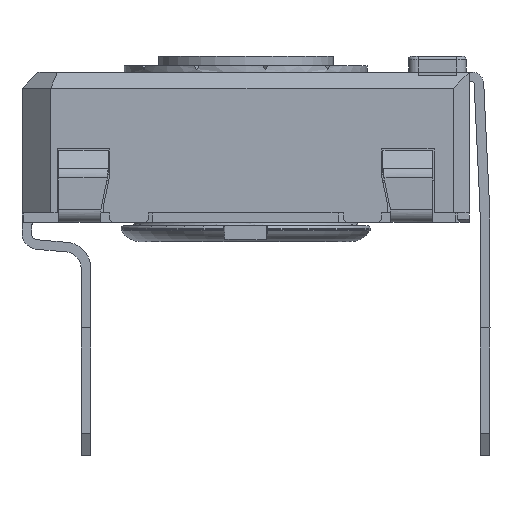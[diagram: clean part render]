
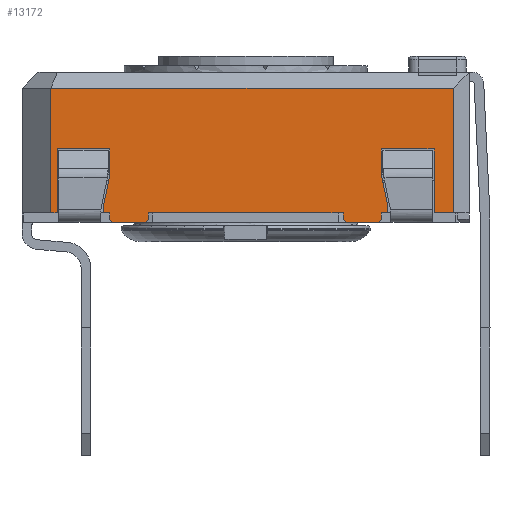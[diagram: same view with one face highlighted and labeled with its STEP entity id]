
A CAD part, left-side view. The second image highlights one B-rep face of the part: STEP entity #13172.
In plain terms, the highlighted planar face has unit normal (-1, 0, 0).
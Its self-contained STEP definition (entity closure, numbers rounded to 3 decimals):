
#453=PLANE('',#14061);
#1060=FACE_OUTER_BOUND('',#1746,.T.);
#1746=EDGE_LOOP('',(#10877,#10878,#10879,#10880,#10881,#10882,#10883,#10884,
#10885,#10886,#10887,#10888,#10889,#10890,#10891,#10892,#10893,#10894,#10895,
#10896,#10897,#10898,#10899,#10900,#10901,#10902,#10903,#10904));
#2746=LINE('',#20163,#4257);
#2752=LINE('',#20175,#4263);
#2755=LINE('',#20182,#4266);
#2760=LINE('',#20191,#4271);
#2780=LINE('',#20232,#4291);
#2794=LINE('',#20258,#4305);
#2798=LINE('',#20265,#4309);
#2813=LINE('',#20294,#4324);
#2816=LINE('',#20300,#4327);
#2821=LINE('',#20310,#4332);
#2824=LINE('',#20316,#4335);
#2827=LINE('',#20322,#4338);
#2845=LINE('',#20357,#4356);
#2857=LINE('',#20379,#4368);
#2860=LINE('',#20385,#4371);
#2897=LINE('',#20519,#4408);
#2900=LINE('',#20525,#4411);
#2926=LINE('',#20572,#4437);
#2931=LINE('',#20582,#4442);
#2933=LINE('',#20585,#4444);
#3058=LINE('',#20896,#4569);
#3060=LINE('',#20901,#4571);
#3063=LINE('',#20905,#4574);
#3065=LINE('',#20909,#4576);
#3068=LINE('',#20917,#4579);
#3069=LINE('',#20919,#4580);
#3070=LINE('',#20920,#4581);
#3071=LINE('',#20921,#4582);
#4257=VECTOR('',#16143,10.);
#4263=VECTOR('',#16151,10.);
#4266=VECTOR('',#16156,10.);
#4271=VECTOR('',#16163,10.);
#4291=VECTOR('',#16197,10.);
#4305=VECTOR('',#16211,10.);
#4309=VECTOR('',#16215,10.);
#4324=VECTOR('',#16242,10.);
#4327=VECTOR('',#16247,10.);
#4332=VECTOR('',#16254,10.);
#4335=VECTOR('',#16259,10.);
#4338=VECTOR('',#16264,10.);
#4356=VECTOR('',#16284,10.);
#4368=VECTOR('',#16298,10.);
#4371=VECTOR('',#16303,10.);
#4408=VECTOR('',#16384,10.);
#4411=VECTOR('',#16389,10.);
#4437=VECTOR('',#16417,10.);
#4442=VECTOR('',#16424,10.);
#4444=VECTOR('',#16428,10.);
#4569=VECTOR('',#16719,10.);
#4571=VECTOR('',#16723,10.);
#4574=VECTOR('',#16728,10.);
#4576=VECTOR('',#16734,10.);
#4579=VECTOR('',#16745,10.);
#4580=VECTOR('',#16746,10.);
#4581=VECTOR('',#16747,10.);
#4582=VECTOR('',#16748,10.);
#6011=VERTEX_POINT('',#20160);
#6012=VERTEX_POINT('',#20162);
#6016=VERTEX_POINT('',#20172);
#6018=VERTEX_POINT('',#20178);
#6020=VERTEX_POINT('',#20181);
#6023=VERTEX_POINT('',#20189);
#6048=VERTEX_POINT('',#20255);
#6049=VERTEX_POINT('',#20257);
#6051=VERTEX_POINT('',#20262);
#6052=VERTEX_POINT('',#20264);
#6059=VERTEX_POINT('',#20291);
#6061=VERTEX_POINT('',#20297);
#6065=VERTEX_POINT('',#20307);
#6067=VERTEX_POINT('',#20313);
#6070=VERTEX_POINT('',#20320);
#6086=VERTEX_POINT('',#20355);
#6095=VERTEX_POINT('',#20377);
#6097=VERTEX_POINT('',#20383);
#6124=VERTEX_POINT('',#20517);
#6125=VERTEX_POINT('',#20522);
#6145=VERTEX_POINT('',#20569);
#6149=VERTEX_POINT('',#20579);
#6223=VERTEX_POINT('',#20893);
#6224=VERTEX_POINT('',#20895);
#6225=VERTEX_POINT('',#20899);
#6226=VERTEX_POINT('',#20900);
#6227=VERTEX_POINT('',#20916);
#6228=VERTEX_POINT('',#20918);
#7546=EDGE_CURVE('',#6012,#6011,#2746,.T.);
#7552=EDGE_CURVE('',#6011,#6016,#2752,.T.);
#7555=EDGE_CURVE('',#6020,#6018,#2755,.T.);
#7560=EDGE_CURVE('',#6023,#6018,#2760,.T.);
#7580=EDGE_CURVE('',#6016,#6020,#2780,.T.);
#7594=EDGE_CURVE('',#6049,#6048,#2794,.T.);
#7598=EDGE_CURVE('',#6052,#6051,#2798,.T.);
#7614=EDGE_CURVE('',#6048,#6059,#2813,.T.);
#7617=EDGE_CURVE('',#6059,#6061,#2816,.T.);
#7622=EDGE_CURVE('',#6061,#6065,#2821,.T.);
#7625=EDGE_CURVE('',#6065,#6067,#2824,.T.);
#7628=EDGE_CURVE('',#6067,#6070,#2827,.T.);
#7646=EDGE_CURVE('',#6070,#6086,#2845,.T.);
#7658=EDGE_CURVE('',#6095,#6086,#2857,.T.);
#7661=EDGE_CURVE('',#6097,#6095,#2860,.T.);
#7710=EDGE_CURVE('',#6124,#6097,#2897,.T.);
#7713=EDGE_CURVE('',#6124,#6125,#2900,.T.);
#7739=EDGE_CURVE('',#6125,#6145,#2926,.T.);
#7744=EDGE_CURVE('',#6145,#6149,#2931,.T.);
#7746=EDGE_CURVE('',#6149,#6012,#2933,.T.);
#7887=EDGE_CURVE('',#6223,#6224,#3058,.T.);
#7889=EDGE_CURVE('',#6225,#6226,#3060,.T.);
#7892=EDGE_CURVE('',#6049,#6223,#3063,.T.);
#7894=EDGE_CURVE('',#6051,#6226,#3065,.T.);
#7897=EDGE_CURVE('',#6023,#6227,#3068,.T.);
#7898=EDGE_CURVE('',#6228,#6227,#3069,.T.);
#7899=EDGE_CURVE('',#6052,#6228,#3070,.T.);
#7900=EDGE_CURVE('',#6225,#6224,#3071,.T.);
#10877=ORIENTED_EDGE('',*,*,#7552,.T.);
#10878=ORIENTED_EDGE('',*,*,#7580,.T.);
#10879=ORIENTED_EDGE('',*,*,#7555,.T.);
#10880=ORIENTED_EDGE('',*,*,#7560,.F.);
#10881=ORIENTED_EDGE('',*,*,#7897,.T.);
#10882=ORIENTED_EDGE('',*,*,#7898,.F.);
#10883=ORIENTED_EDGE('',*,*,#7899,.F.);
#10884=ORIENTED_EDGE('',*,*,#7598,.T.);
#10885=ORIENTED_EDGE('',*,*,#7894,.T.);
#10886=ORIENTED_EDGE('',*,*,#7889,.F.);
#10887=ORIENTED_EDGE('',*,*,#7900,.T.);
#10888=ORIENTED_EDGE('',*,*,#7887,.F.);
#10889=ORIENTED_EDGE('',*,*,#7892,.F.);
#10890=ORIENTED_EDGE('',*,*,#7594,.T.);
#10891=ORIENTED_EDGE('',*,*,#7614,.T.);
#10892=ORIENTED_EDGE('',*,*,#7617,.T.);
#10893=ORIENTED_EDGE('',*,*,#7622,.T.);
#10894=ORIENTED_EDGE('',*,*,#7625,.T.);
#10895=ORIENTED_EDGE('',*,*,#7628,.T.);
#10896=ORIENTED_EDGE('',*,*,#7646,.T.);
#10897=ORIENTED_EDGE('',*,*,#7658,.F.);
#10898=ORIENTED_EDGE('',*,*,#7661,.F.);
#10899=ORIENTED_EDGE('',*,*,#7710,.F.);
#10900=ORIENTED_EDGE('',*,*,#7713,.T.);
#10901=ORIENTED_EDGE('',*,*,#7739,.T.);
#10902=ORIENTED_EDGE('',*,*,#7744,.T.);
#10903=ORIENTED_EDGE('',*,*,#7746,.T.);
#10904=ORIENTED_EDGE('',*,*,#7546,.T.);
#13172=ADVANCED_FACE('',(#1060),#453,.T.);
#14061=AXIS2_PLACEMENT_3D('',#20915,#16743,#16744);
#16143=DIRECTION('',(0.,0.208,-0.978));
#16151=DIRECTION('',(0.,0.,-1.));
#16156=DIRECTION('',(0.,0.,-1.));
#16163=DIRECTION('',(0.,0.707,0.707));
#16197=DIRECTION('',(0.,-1.,0.));
#16211=DIRECTION('',(0.,-1.,0.));
#16215=DIRECTION('',(0.,-1.,0.));
#16242=DIRECTION('',(0.,0.,1.));
#16247=DIRECTION('',(0.,0.208,0.978));
#16254=DIRECTION('',(0.,0.,1.));
#16259=DIRECTION('',(0.,-1.,0.));
#16264=DIRECTION('',(0.,0.,-1.));
#16284=DIRECTION('',(0.,-1.,0.));
#16298=DIRECTION('',(0.,0.,-1.));
#16303=DIRECTION('',(0.,-1.,0.));
#16384=DIRECTION('',(0.,0.,1.));
#16389=DIRECTION('',(0.,-1.,0.));
#16417=DIRECTION('',(0.,0.,1.));
#16424=DIRECTION('',(0.,-1.,0.));
#16428=DIRECTION('',(0.,0.,-1.));
#16719=DIRECTION('',(0.,0.707,-0.707));
#16723=DIRECTION('',(0.,0.707,0.707));
#16728=DIRECTION('',(0.,0.,-1.));
#16734=DIRECTION('',(0.,0.,-1.));
#16743=DIRECTION('center_axis',(-1.,0.,0.));
#16744=DIRECTION('ref_axis',(0.,0.,1.));
#16745=DIRECTION('',(0.,-1.,0.));
#16746=DIRECTION('',(0.,0.707,-0.707));
#16747=DIRECTION('',(0.,0.,-1.));
#16748=DIRECTION('',(0.,-1.,0.));
#20160=CARTESIAN_POINT('',(-14.467,1.552,0.235));
#20162=CARTESIAN_POINT('',(-14.467,1.352,1.176));
#20163=CARTESIAN_POINT('',(-14.467,1.228,1.757));
#20172=CARTESIAN_POINT('',(-14.467,1.552,0.));
#20175=CARTESIAN_POINT('',(-14.467,1.552,0.));
#20178=CARTESIAN_POINT('',(-14.467,1.352,-0.2));
#20181=CARTESIAN_POINT('',(-14.467,1.352,0.));
#20182=CARTESIAN_POINT('',(-14.467,1.352,0.));
#20189=CARTESIAN_POINT('',(-14.467,1.252,-0.3));
#20191=CARTESIAN_POINT('',(-14.467,-1.436,-2.988));
#20232=CARTESIAN_POINT('',(-14.467,4.102,0.));
#20255=CARTESIAN_POINT('',(-14.467,-7.348,0.));
#20257=CARTESIAN_POINT('',(-14.467,-7.148,0.));
#20258=CARTESIAN_POINT('',(-14.467,4.102,0.));
#20262=CARTESIAN_POINT('',(-14.467,-5.948,0.));
#20264=CARTESIAN_POINT('',(-14.467,0.152,0.));
#20265=CARTESIAN_POINT('',(-14.467,4.102,0.));
#20291=CARTESIAN_POINT('',(-14.467,-7.348,0.235));
#20294=CARTESIAN_POINT('',(-14.467,-7.348,0.118));
#20297=CARTESIAN_POINT('',(-14.467,-7.148,1.176));
#20300=CARTESIAN_POINT('',(-14.467,-7.453,-0.254));
#20307=CARTESIAN_POINT('',(-14.467,-7.148,2.));
#20310=CARTESIAN_POINT('',(-14.467,-7.148,0.588));
#20313=CARTESIAN_POINT('',(-14.467,-8.798,2.));
#20316=CARTESIAN_POINT('',(-14.467,-8.523,2.));
#20320=CARTESIAN_POINT('',(-14.467,-8.798,0.));
#20322=CARTESIAN_POINT('',(-14.467,-8.798,0.));
#20355=CARTESIAN_POINT('',(-14.467,-9.398,0.));
#20357=CARTESIAN_POINT('',(-14.467,-9.595,0.));
#20377=CARTESIAN_POINT('',(-14.467,-9.398,3.9));
#20379=CARTESIAN_POINT('',(-14.467,-9.398,0.));
#20383=CARTESIAN_POINT('',(-14.467,3.202,3.9));
#20385=CARTESIAN_POINT('',(-14.467,-6.398,3.9));
#20517=CARTESIAN_POINT('',(-14.467,3.202,0.));
#20519=CARTESIAN_POINT('',(-14.467,3.202,0.));
#20522=CARTESIAN_POINT('',(-14.467,3.002,0.));
#20525=CARTESIAN_POINT('',(-14.467,-2.985,0.));
#20569=CARTESIAN_POINT('',(-14.467,3.002,2.));
#20572=CARTESIAN_POINT('',(-14.467,3.002,0.));
#20579=CARTESIAN_POINT('',(-14.467,1.352,2.));
#20582=CARTESIAN_POINT('',(-14.467,-3.448,2.));
#20585=CARTESIAN_POINT('',(-14.467,1.352,1.));
#20893=CARTESIAN_POINT('',(-14.467,-7.148,-0.2));
#20895=CARTESIAN_POINT('',(-14.467,-7.048,-0.3));
#20896=CARTESIAN_POINT('',(-14.467,-7.861,0.513));
#20899=CARTESIAN_POINT('',(-14.467,-6.048,-0.3));
#20900=CARTESIAN_POINT('',(-14.467,-5.948,-0.2));
#20901=CARTESIAN_POINT('',(-14.467,-6.911,-1.163));
#20905=CARTESIAN_POINT('',(-14.467,-7.148,0.));
#20909=CARTESIAN_POINT('',(-14.467,-5.948,0.));
#20915=CARTESIAN_POINT('Origin',(-14.467,-9.898,0.));
#20916=CARTESIAN_POINT('',(-14.467,0.252,-0.3));
#20917=CARTESIAN_POINT('',(-14.467,0.152,-0.3));
#20918=CARTESIAN_POINT('',(-14.467,0.152,-0.2));
#20919=CARTESIAN_POINT('',(-14.467,-2.386,2.338));
#20920=CARTESIAN_POINT('',(-14.467,0.152,0.));
#20921=CARTESIAN_POINT('',(-14.467,-7.148,-0.3));
